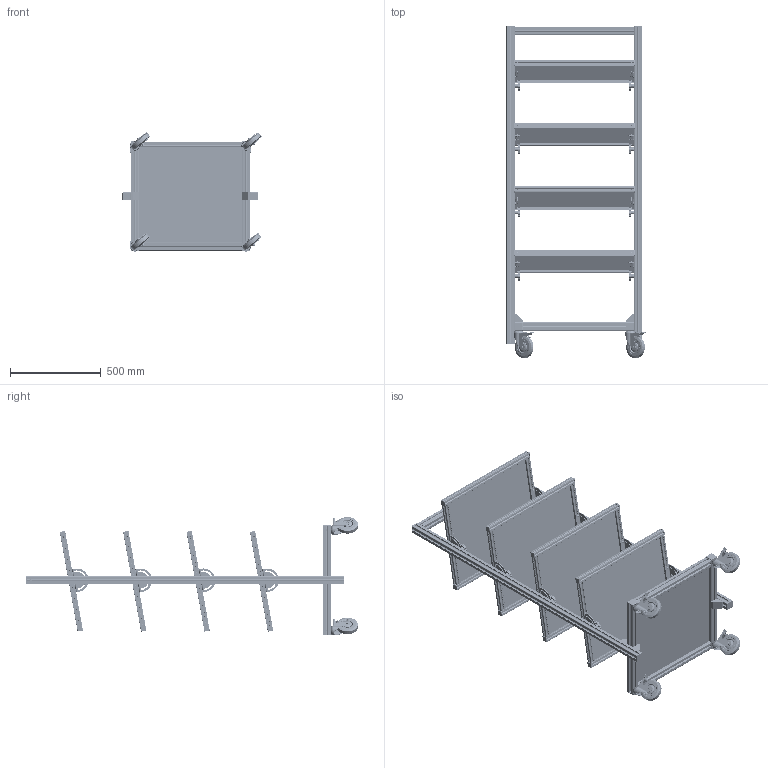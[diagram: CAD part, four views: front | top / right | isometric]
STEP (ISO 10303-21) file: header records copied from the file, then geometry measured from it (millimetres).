
FILE_DESCRIPTION (( 'STEP AP214' ), '1' );
FILE_NAME ('RSI-1002 Ïîäêàòíàÿ ñòîéêà.STEP', '2024-06-27T11:50:47', ( 'Àëåêñåé' ), ( '' ), 'SwSTEP 2.0', 'SolidWorks 2022', '' );
FILE_SCHEMA (( 'AUTOMOTIVE_DESIGN' ));
Length unit declared in the file: millimetre
Products named in the file (34): Полка сталь 2 мм_525х585 мм; Полка сталь 2 мм_515х615 мм; OB-4545L-ВР Профиль 45х45 мм. Паз 10 мм (Без покрытия)_L=1750 мм; OB-3030 Профиль 30х30 мм, паз 8 мм (Анодированный)_L=660 мм; 1036; 4045_L=570 мм; 2050; 4045_L=535 мм; Полка^RSI-1002 Подкатная стойка; OB-3030 Профиль 30х30 мм, паз 8 мм (Анодированный)_L=500 мм; 5031_Упрощенный; 5546_Без резьбы; OB-4545L-ВР Профиль 45х45 мм. Паз 10 мм (Без покрытия)_L=660 мм; Винт полусфера ISO 7380_М8х12; 4004; OB-4545L-ВР Профиль 45х45 мм. Паз 10 мм (Без покрытия)_L=600 мм; D50M8H15; Винт-пот.-шестигр.-ГОСТ-Р-ИСО-10642-2012-DIN-7991_М8x25; Винт полусфера ISO 7380_М8х16; 4002; RSI-1002 Подкатная стойка; 5108 новый_Упрощенный; OB-4545L-ВР Профиль 45х45 мм. Паз 10 мм (Без покрытия)_L=570 мм; 1036cap; Гайка М8 DIN 6923; 4044_L=500 мм; 935125М10; 5540_Без резьбы; Винт полусфера ISO 7380_М8х20; 5074; 4044_L=620 мм
Assembly tree (152 placements, depth 3):
  RSI-1002 Подкатная стойка
    OB-4545L-ВР Профиль 45х45 мм. Паз 10 мм (Без покрытия)_L=660 мм
    OB-4545L-ВР Профиль 45х45 мм. Паз 10 мм (Без покрытия)_L=1750 мм
    OB-4545L-ВР Профиль 45х45 мм. Паз 10 мм (Без покрытия)_L=1750 мм
    Полка^RSI-1002 Подкатная стойка  x4
      OB-3030 Профиль 30х30 мм, паз 8 мм (Анодированный)_L=660 мм
      OB-3030 Профиль 30х30 мм, паз 8 мм (Анодированный)_L=660 мм
      OB-3030 Профиль 30х30 мм, паз 8 мм (Анодированный)_L=500 мм
      4044_L=500 мм
      Полка сталь 2 мм_515х615 мм
      4002
      4044_L=620 мм
      Винт полусфера ISO 7380_М8х20
    4004  x8
    OB-4545L-ВР Профиль 45х45 мм. Паз 10 мм (Без покрытия)_L=600 мм
    OB-4545L-ВР Профиль 45х45 мм. Паз 10 мм (Без покрытия)_L=600 мм
    OB-4545L-ВР Профиль 45х45 мм. Паз 10 мм (Без покрытия)_L=570 мм  x2
    5108 новый_Упрощенный  x6
    1036  x4
    5031_Упрощенный  x8
    Гайка М8 DIN 6923  x8
    2050  x8
    Винт полусфера ISO 7380_М8х16  x8
    5546_Без резьбы  x16
    1036cap  x4
    Винт полусфера ISO 7380_М8х12  x16
    5540_Без резьбы  x16
    D50M8H15  x8
    935125М10  x4
    5074  x4
    Винт-пот.-шестигр.-ГОСТ-Р-ИСО-10642-2012-DIN-7991_М8x25
    Полка сталь 2 мм_525х585 мм
    4045_L=535 мм  x2
    4045_L=570 мм  x2
Bounding box: 768.05 x 1832.89 x 658.64 mm (x, y, z)
Volume: 11586328.1 mm3; surface area: 12222420.8 mm2
Topology: 510 solids, 510 shells, 20664 faces, 52088 edges, 32203 vertices
Faces by surface type: plane 8942, cylinder 6147, bspline 2360, torus 2042, sphere 620, cone 553
Entity records: 187330 total; most frequent: CARTESIAN_POINT 68192, ORIENTED_EDGE 22656, DIRECTION 20566, EDGE_CURVE 11328, VERTEX_POINT 7210, AXIS2_PLACEMENT_3D 7006, VECTOR 6554, LINE 6554
